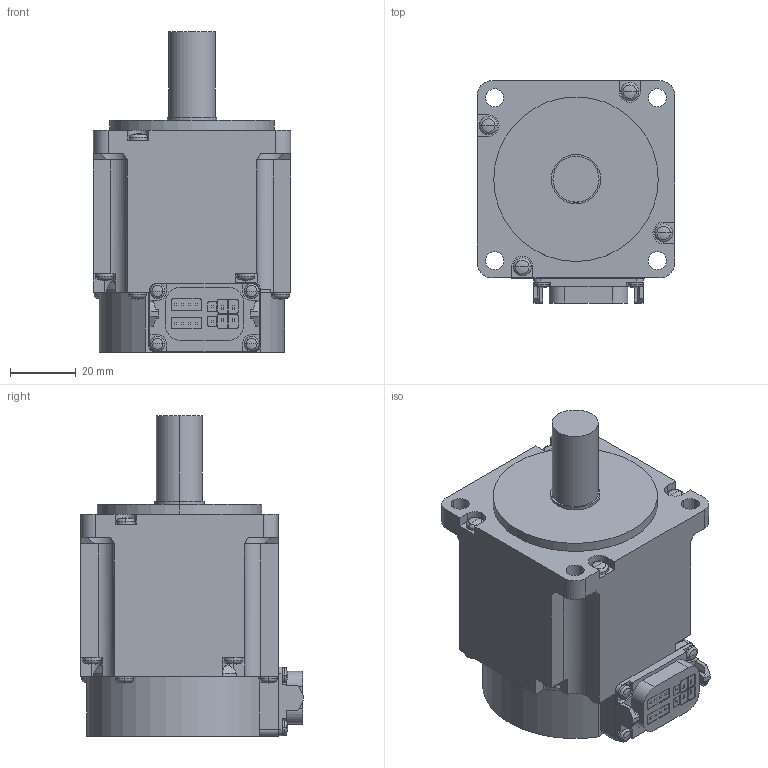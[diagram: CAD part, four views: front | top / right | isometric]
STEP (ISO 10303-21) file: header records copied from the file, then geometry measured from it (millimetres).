
FILE_DESCRIPTION((''),'2;1');
FILE_NAME('HK-KT23W_-_ASM','2019-01-15T',('XE90682'),(''),'CREO PARAMETRIC BY PTC INC, 2016380','CREO PARAMETRIC BY PTC INC, 2016380','');
FILE_SCHEMA(('CONFIG_CONTROL_DESIGN'));
Length unit declared in the file: millimetre
Products named in the file (1): HK-KT23W_-_ASM
Bounding box: 60 x 67.65 x 97.5 mm (x, y, z)
Volume: 220642.1 mm3; surface area: 25352.3 mm2
Topology: 1 solids, 1 shells, 401 faces, 1042 edges, 654 vertices
Faces by surface type: plane 221, cylinder 113, torus 32, sphere 32, cone 3
Entity records: 12252 total; most frequent: CARTESIAN_POINT 2292, DIRECTION 2120, ORIENTED_EDGE 2020, EDGE_CURVE 1010, AXIS2_PLACEMENT_3D 726, VECTOR 668, LINE 668, VERTEX_POINT 654
